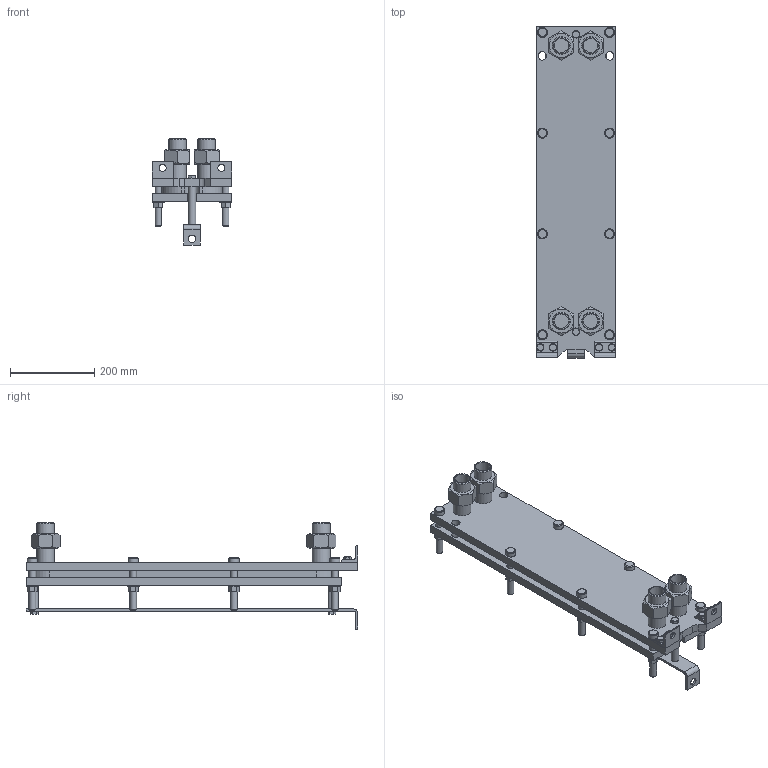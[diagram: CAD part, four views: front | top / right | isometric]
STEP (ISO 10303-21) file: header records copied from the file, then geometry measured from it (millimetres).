
FILE_DESCRIPTION(/* description */ (''),/* implementation_level */ '2;1');
FILE_NAME(/* name */ 'C:\Users\zhuro\Desktop\ENCO\TO\ЭН-008\ЭН-0,5-008-5-1.stp',/* time_stamp */ '2022-06-06T10:45:27+03:00',/* author */ ('zhuro'),/* organization */ (''),/* preprocessor_version */ 'ST-DEVELOPER v18.1',/* originating_system */ 'Autodesk Inventor 2022',/* authorisation */ '');
FILE_SCHEMA (('AUTOMOTIVE_DESIGN { 1 0 10303 214 3 1 1 }'));
Length unit declared in the file: millimetre
Products named in the file (1): ЭН-0,5-008-5-1
Bounding box: 190 x 790 x 253 mm (x, y, z)
Volume: 8150591.7 mm3; surface area: 1217935.9 mm2
Topology: 40 solids, 40 shells, 428 faces, 924 edges, 606 vertices
Faces by surface type: plane 273, cylinder 109, cone 40, torus 6
Full cylindrical faces by diameter (mm): 12 x6, 14 x2, 16 x20, 17 x8, 18 x19, 20 x5, 24 x8, 28 x8, 34.3 x8, 42.3 x8
Entity records: 15843 total; most frequent: CARTESIAN_POINT 5991, DIRECTION 1984, ORIENTED_EDGE 1848, EDGE_CURVE 924, AXIS2_PLACEMENT_3D 715, VERTEX_POINT 606, LINE 554, VECTOR 554
